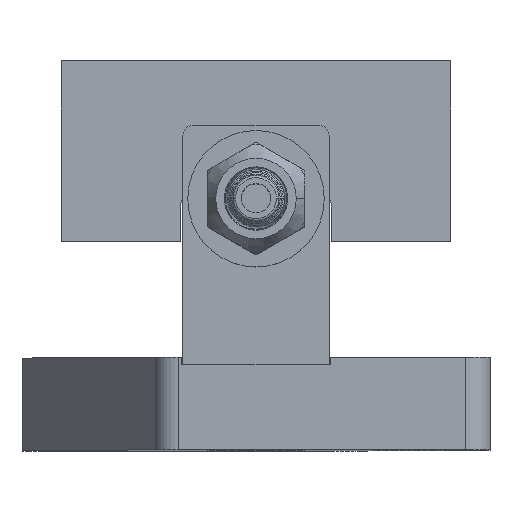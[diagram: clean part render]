
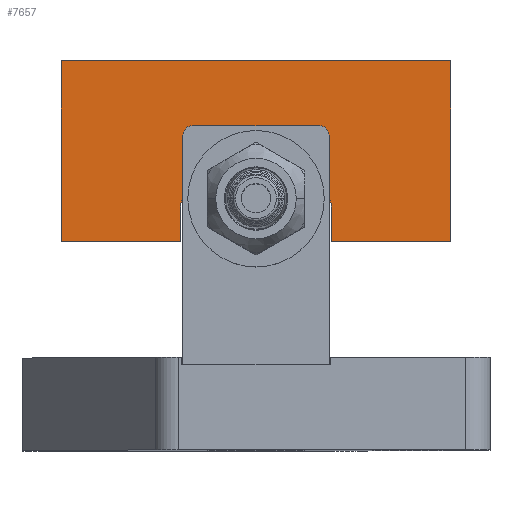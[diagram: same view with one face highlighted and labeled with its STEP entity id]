
A CAD part, top view. The second image highlights one B-rep face of the part: STEP entity #7657.
In plain terms, the highlighted planar face has unit normal (0, 0, 1) as drawn and (-1, 0, 0) by its records, which use the part's own axes.
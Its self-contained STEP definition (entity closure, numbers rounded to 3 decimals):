
#237 = DIRECTION ( 'NONE',  ( 0., -1., 0. ) ) ;
#278 = CARTESIAN_POINT ( 'NONE',  ( 0., -10., 40. ) ) ;
#339 = CIRCLE ( 'NONE', #8606, 3. ) ;
#415 = CIRCLE ( 'NONE', #3015, 3. ) ;
#516 = EDGE_CURVE ( 'NONE', #5579, #14109, #5115, .T. ) ;
#699 = ORIENTED_EDGE ( 'NONE', *, *, #14038, .F. ) ;
#1300 = CARTESIAN_POINT ( 'NONE',  ( 0., 0., -12.5 ) ) ;
#1713 = LINE ( 'NONE', #8515, #4151 ) ;
#1718 = LINE ( 'NONE', #5039, #6687 ) ;
#1793 = DIRECTION ( 'NONE',  ( 0., 0., -1. ) ) ;
#1794 = DIRECTION ( 'NONE',  ( 0., 0., 1. ) ) ;
#2006 = CARTESIAN_POINT ( 'NONE',  ( 0., 0., 0. ) ) ;
#2063 = EDGE_CURVE ( 'NONE', #5524, #5579, #14609, .T. ) ;
#2252 = VECTOR ( 'NONE', #13722, 1000. ) ;
#2303 = CARTESIAN_POINT ( 'NONE',  ( 0., -10., 15.5 ) ) ;
#2335 = VERTEX_POINT ( 'NONE', #11350 ) ;
#3015 = AXIS2_PLACEMENT_3D ( 'NONE', #3268, #9034, #9997 ) ;
#3268 = CARTESIAN_POINT ( 'NONE',  ( 0., -3., 12.5 ) ) ;
#3556 = EDGE_LOOP ( 'NONE', ( #12763, #10461, #12973, #5939, #9760, #9530, #699, #11717, #4231, #5221 ) ) ;
#4116 = DIRECTION ( 'NONE',  ( 0., 1., 0. ) ) ;
#4151 = VECTOR ( 'NONE', #5109, 1000. ) ;
#4231 = ORIENTED_EDGE ( 'NONE', *, *, #2063, .F. ) ;
#4445 = CARTESIAN_POINT ( 'NONE',  ( 0., 27., -40. ) ) ;
#4645 = LINE ( 'NONE', #8208, #2252 ) ;
#4982 = VERTEX_POINT ( 'NONE', #9881 ) ;
#5039 = CARTESIAN_POINT ( 'NONE',  ( 0., -10., 40. ) ) ;
#5109 = DIRECTION ( 'NONE',  ( 0., 1., 0. ) ) ;
#5115 = LINE ( 'NONE', #13055, #5786 ) ;
#5221 = ORIENTED_EDGE ( 'NONE', *, *, #7543, .F. ) ;
#5524 = VERTEX_POINT ( 'NONE', #9929 ) ;
#5579 = VERTEX_POINT ( 'NONE', #4445 ) ;
#5678 = DIRECTION ( 'NONE',  ( 0., -1., 0. ) ) ;
#5738 = CARTESIAN_POINT ( 'NONE',  ( 0., -3., 15.5 ) ) ;
#5786 = VECTOR ( 'NONE', #1794, 1000. ) ;
#5939 = ORIENTED_EDGE ( 'NONE', *, *, #14158, .T. ) ;
#5985 = DIRECTION ( 'NONE',  ( 0., 0., -1. ) ) ;
#6095 = CARTESIAN_POINT ( 'NONE',  ( 0., 27., 40. ) ) ;
#6217 = AXIS2_PLACEMENT_3D ( 'NONE', #2006, #7492, #6521 ) ;
#6383 = EDGE_CURVE ( 'NONE', #4982, #10246, #1713, .T. ) ;
#6444 = PLANE ( 'NONE',  #6217 ) ;
#6521 = DIRECTION ( 'NONE',  ( 0., 0., 1. ) ) ;
#6653 = EDGE_CURVE ( 'NONE', #9498, #8675, #8132, .T. ) ;
#6687 = VECTOR ( 'NONE', #1793, 1000. ) ;
#7492 = DIRECTION ( 'NONE',  ( -1., 0., 0. ) ) ;
#7543 = EDGE_CURVE ( 'NONE', #4982, #5524, #1718, .T. ) ;
#7657 = ADVANCED_FACE ( 'NONE', ( #8668 ), #6444, .T. ) ;
#7817 = EDGE_CURVE ( 'NONE', #12925, #8675, #11386, .T. ) ;
#8132 = LINE ( 'NONE', #12677, #13137 ) ;
#8208 = CARTESIAN_POINT ( 'NONE',  ( 0., 0., 15.5 ) ) ;
#8515 = CARTESIAN_POINT ( 'NONE',  ( 0., -10., -15.5 ) ) ;
#8606 = AXIS2_PLACEMENT_3D ( 'NONE', #9880, #14443, #9945 ) ;
#8668 = FACE_OUTER_BOUND ( 'NONE', #3556, .T. ) ;
#8675 = VERTEX_POINT ( 'NONE', #9706 ) ;
#8823 = EDGE_CURVE ( 'NONE', #10246, #12089, #339, .T. ) ;
#9034 = DIRECTION ( 'NONE',  ( 1., 0., 0. ) ) ;
#9497 = EDGE_CURVE ( 'NONE', #12089, #2335, #4645, .T. ) ;
#9498 = VERTEX_POINT ( 'NONE', #278 ) ;
#9530 = ORIENTED_EDGE ( 'NONE', *, *, #6653, .F. ) ;
#9602 = CARTESIAN_POINT ( 'NONE',  ( 0., -3., -15.5 ) ) ;
#9616 = VECTOR ( 'NONE', #237, 1000. ) ;
#9706 = CARTESIAN_POINT ( 'NONE',  ( 0., -10., 15.5 ) ) ;
#9760 = ORIENTED_EDGE ( 'NONE', *, *, #7817, .T. ) ;
#9880 = CARTESIAN_POINT ( 'NONE',  ( 0., -3., -12.5 ) ) ;
#9881 = CARTESIAN_POINT ( 'NONE',  ( 0., -10., -15.5 ) ) ;
#9929 = CARTESIAN_POINT ( 'NONE',  ( 0., -10., -40. ) ) ;
#9945 = DIRECTION ( 'NONE',  ( 0., 0., 1. ) ) ;
#9997 = DIRECTION ( 'NONE',  ( 0., 0., 1. ) ) ;
#10246 = VERTEX_POINT ( 'NONE', #9602 ) ;
#10385 = CARTESIAN_POINT ( 'NONE',  ( 0., -10., 40. ) ) ;
#10461 = ORIENTED_EDGE ( 'NONE', *, *, #8823, .T. ) ;
#11350 = CARTESIAN_POINT ( 'NONE',  ( 0., 0., 12.5 ) ) ;
#11386 = LINE ( 'NONE', #2303, #12855 ) ;
#11576 = LINE ( 'NONE', #10385, #9616 ) ;
#11717 = ORIENTED_EDGE ( 'NONE', *, *, #516, .F. ) ;
#12089 = VERTEX_POINT ( 'NONE', #1300 ) ;
#12273 = CARTESIAN_POINT ( 'NONE',  ( 0., -10., -40. ) ) ;
#12677 = CARTESIAN_POINT ( 'NONE',  ( 0., -10., 40. ) ) ;
#12763 = ORIENTED_EDGE ( 'NONE', *, *, #6383, .T. ) ;
#12838 = VECTOR ( 'NONE', #4116, 1000. ) ;
#12855 = VECTOR ( 'NONE', #5678, 1000. ) ;
#12925 = VERTEX_POINT ( 'NONE', #5738 ) ;
#12973 = ORIENTED_EDGE ( 'NONE', *, *, #9497, .T. ) ;
#13055 = CARTESIAN_POINT ( 'NONE',  ( 0., 27., 40. ) ) ;
#13137 = VECTOR ( 'NONE', #5985, 1000. ) ;
#13722 = DIRECTION ( 'NONE',  ( 0., 0., 1. ) ) ;
#14038 = EDGE_CURVE ( 'NONE', #14109, #9498, #11576, .T. ) ;
#14109 = VERTEX_POINT ( 'NONE', #6095 ) ;
#14158 = EDGE_CURVE ( 'NONE', #2335, #12925, #415, .T. ) ;
#14443 = DIRECTION ( 'NONE',  ( 1., 0., 0. ) ) ;
#14609 = LINE ( 'NONE', #12273, #12838 ) ;
